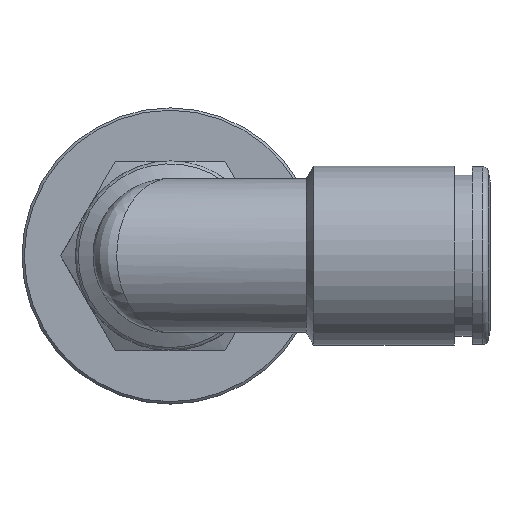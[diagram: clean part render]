
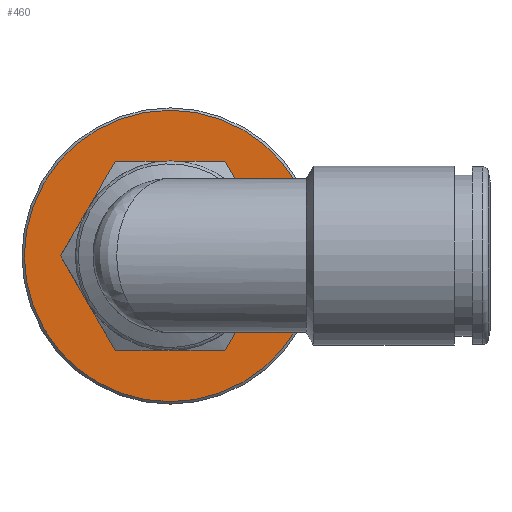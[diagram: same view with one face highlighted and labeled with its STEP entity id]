
A CAD part, top view. The second image highlights one B-rep face of the part: STEP entity #460.
In plain terms, the highlighted planar face has unit normal (0, 0, 1).
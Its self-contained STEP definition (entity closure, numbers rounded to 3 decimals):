
#460=ADVANCED_FACE('', (#470,#480), #490, .T.);
#4210=AXIS2_PLACEMENT_3D('Ax2Pl3d', #4220, #4230, #4240);
#4250=AXIS2_PLACEMENT_3D('Ax2Pl3d', #4260, #4270, #4280);
#4220=CARTESIAN_POINT('HicPkt', (32.236,17.943,
17.243));
#4260=CARTESIAN_POINT('HicPkt', (19.936,17.943,
17.243));
#21700=CARTESIAN_POINT('', (19.936,30.243,17.243));
#21710=CARTESIAN_POINT('', (15.317,25.943,17.243))
;
#21720=CARTESIAN_POINT('', (24.555,25.943,17.243));
#21730=CARTESIAN_POINT('', (15.317,25.943,17.243));
#21740=CARTESIAN_POINT('', (24.555,25.943,17.243));
#21750=CARTESIAN_POINT('', (29.174,17.943,17.243))
;
#21760=CARTESIAN_POINT('', (29.174,17.943,17.243));
#21770=CARTESIAN_POINT('', (24.555,9.943,17.243));
#21780=CARTESIAN_POINT('', (24.555,9.943,17.243));
#21790=CARTESIAN_POINT('', (15.317,9.943,17.243))
;
#21800=CARTESIAN_POINT('', (15.317,9.943,17.243));
#21810=CARTESIAN_POINT('', (10.699,17.943,17.243));
#21820=CARTESIAN_POINT('', (10.699,17.943,17.243));
#22800=CIRCLE('Circle', #4250, 12.3);
#4230=DIRECTION('Axis', (0.,0.,1.));
#4240=DIRECTION('RefDirection', (1.,0.,-0.));
#4270=DIRECTION('Axis', (0.,0.,1.));
#4280=DIRECTION('RefDirection', (1.,0.,-0.));
#26560=DIRECTION('', (-1.,0.,0.));
#26570=DIRECTION('', (-0.5,0.866,0.));
#26580=DIRECTION('', (0.5,0.866,0.));
#26590=DIRECTION('', (1.,0.,0.));
#26600=DIRECTION('', (0.5,-0.866,0.));
#26610=DIRECTION('', (-0.5,-0.866,0.));
#26900=EDGE_CURVE('', #26910, #26910, #22800, .T.);
#26920=EDGE_CURVE('', #26930, #26940, #26950, .T.);
#26960=EDGE_CURVE('', #26970, #26930, #26980, .T.);
#26990=EDGE_CURVE('', #27000, #26970, #27010, .T.);
#27020=EDGE_CURVE('', #27030, #27000, #27040, .T.);
#27050=EDGE_CURVE('', #27060, #27030, #27070, .T.);
#27080=EDGE_CURVE('', #26940, #27060, #27090, .T.);
#29340=EDGE_LOOP('Edge_loop', (#29350));
#29360=EDGE_LOOP('Edge_loop', (#29370,#29380,#29390,#29400,#29410,
#29420));
#480=FACE_BOUND('', #29360, .T.);
#470=FACE_OUTER_BOUND('Face_outer_bound', #29340, .T.);
#26950=LINE('Line', #21710, #33260);
#26980=LINE('Line', #21740, #33270);
#27010=LINE('Line', #21760, #33280);
#27040=LINE('Line', #21780, #33290);
#27070=LINE('Line', #21800, #33300);
#27090=LINE('Line', #21820, #33310);
#29350=ORIENTED_EDGE('', *, *, #26900, .T.);
#29370=ORIENTED_EDGE('', *, *, #26920, .F.);
#29380=ORIENTED_EDGE('', *, *, #26960, .F.);
#29390=ORIENTED_EDGE('', *, *, #26990, .F.);
#29400=ORIENTED_EDGE('', *, *, #27020, .F.);
#29410=ORIENTED_EDGE('', *, *, #27050, .F.);
#29420=ORIENTED_EDGE('', *, *, #27080, .F.);
#490=PLANE('Plane', #4210);
#33260=VECTOR('', #26560, 9.238);
#33270=VECTOR('', #26570, 9.238);
#33280=VECTOR('', #26580, 9.238);
#33290=VECTOR('', #26590, 9.238);
#33300=VECTOR('', #26600, 9.238);
#33310=VECTOR('', #26610, 9.238);
#26910=VERTEX_POINT('', #21700);
#26930=VERTEX_POINT('', #21720);
#26940=VERTEX_POINT('', #21730);
#26970=VERTEX_POINT('', #21750);
#27000=VERTEX_POINT('', #21770);
#27030=VERTEX_POINT('', #21790);
#27060=VERTEX_POINT('', #21810);
